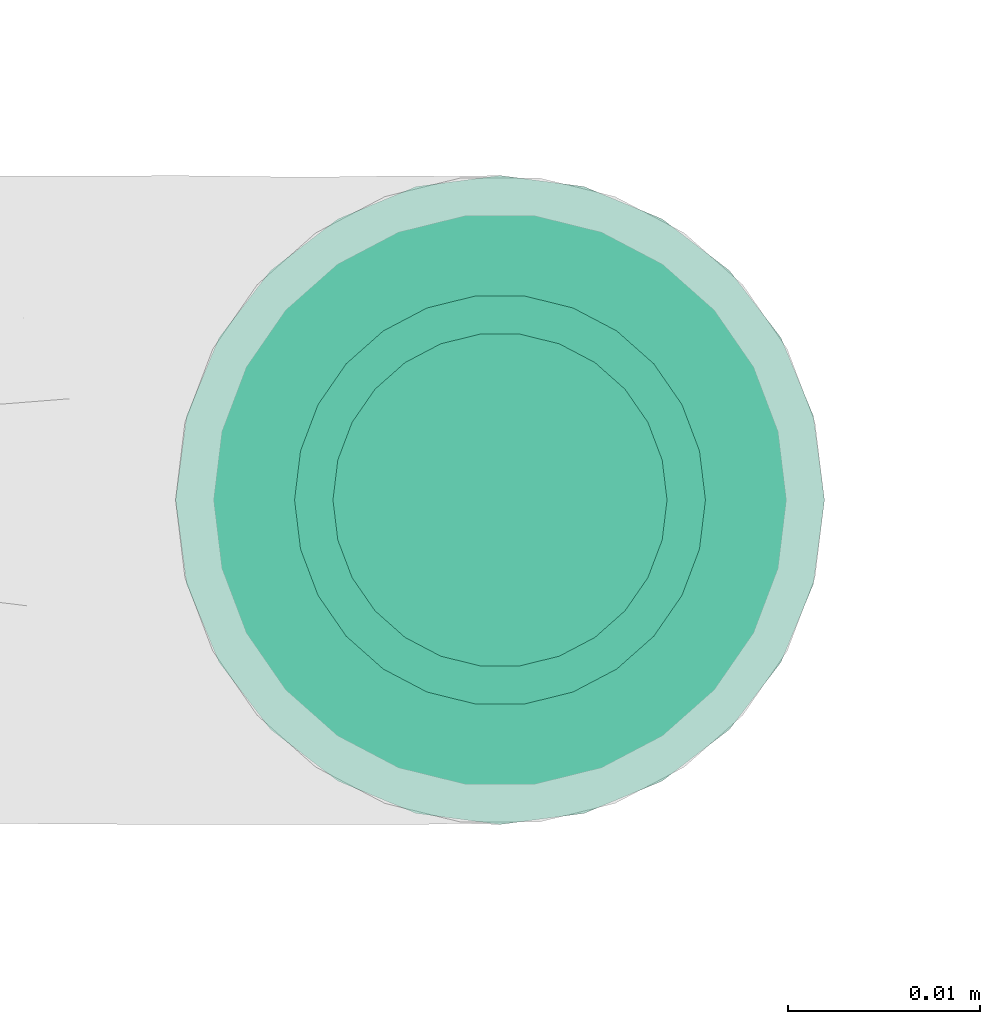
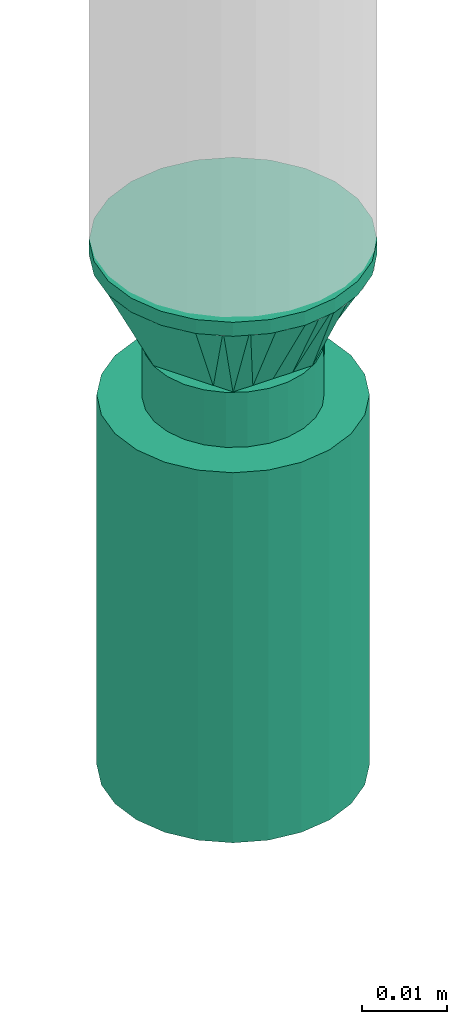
# One storey, part 33 of 43: 1 flow fitting, 1 flow segment, 1 flow terminal.
"""IFC2X3 building model written with IfcOpenShell, lengths in millimetres."""

from ifc_helpers import new_model, entity, si_unit, converted_unit, derived_unit, direction, frame, origin_with_axes, origin_2d_with_axis, place, context, subcontext, project, spatial, hollow_circle, extrude, open_shell, surface_model, source, transform, mapped, type_object, element, save


model = new_model("IFC2X3")

# Units and contexts
model_context = context("Model", 3, precision=0.01, world=frame((0.0, 4.29681676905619e-09, 0.0)), true_north=direction((4.01073788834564e-13, 1.0)))
plan_context = context("Plan", 3, precision=0.01, world=frame((0.0, 4.29681676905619e-09, 0.0)), true_north=direction((4.01073788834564e-13, 1.0)))
body_context = subcontext(model_context, "Body", "Model", "MODEL_VIEW")
ifc_project = project(units=[converted_unit("PLANEANGLEUNIT", "DEGREE", entity("IfcPositiveLengthMeasure", 0.0174532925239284), si_unit("PLANEANGLEUNIT", "RADIAN"), dimensions=[0, 0, 0, 0, 0, 0, 0]), si_unit("AREAUNIT", "SQUARE_METRE"), si_unit("LENGTHUNIT", "METRE", prefix="MILLI"), si_unit("MASSUNIT", "GRAM", prefix="KILO"), si_unit("POWERUNIT", "WATT"), si_unit("PRESSUREUNIT", "PASCAL"), si_unit("FORCEUNIT", "NEWTON", prefix="KILO"), si_unit("ELECTRICVOLTAGEUNIT", "VOLT"), si_unit("ELECTRICCURRENTUNIT", "AMPERE"), si_unit("THERMODYNAMICTEMPERATUREUNIT", "DEGREE_CELSIUS"), si_unit("TIMEUNIT", "SECOND"), si_unit("VOLUMEUNIT", "CUBIC_METRE"), derived_unit("LINEARVELOCITYUNIT", [(si_unit("LENGTHUNIT", "METRE"), 1), (si_unit("TIMEUNIT", "SECOND"), -1)]), derived_unit("VOLUMETRICFLOWRATEUNIT", [(si_unit("VOLUMEUNIT", "CUBIC_METRE"), 1), (si_unit("TIMEUNIT", "SECOND"), -1)]), derived_unit("THERMALTRANSMITTANCEUNIT", [(si_unit("POWERUNIT", "WATT"), 1), (si_unit("THERMODYNAMICTEMPERATUREUNIT", "KELVIN"), -1), (si_unit("AREAUNIT", "SQUARE_METRE"), -1)]), derived_unit("SOUNDPRESSUREUNIT", [(si_unit("PRESSUREUNIT", "PASCAL"), 1)])], contexts=[model_context, plan_context])

# Site, building, storey
site_placement = place(None, frame((0.0, -4.29681676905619e-09, 0.0), z_axis=(0.0, 0.0, 1.0), x_axis=(1.0, 0.0, 0.0)))
site = spatial("IfcSite", under=ifc_project, at=site_placement, CompositionType="ELEMENT")
building_placement = place(site_placement, frame((0.0, 4.29681676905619e-09, 0.0), z_axis=(0.0, 0.0, 1.0), x_axis=(1.0, 0.0, 0.0)))
building = spatial("IfcBuilding", under=site, at=building_placement, Name="mc-building", CompositionType="ELEMENT")
storey_placement = place(building_placement, frame((0.0, 0.0, 210900.0), z_axis=(0.0, 0.0, 1.0), x_axis=(1.0, 0.0, 0.0)))
storey = spatial("IfcBuildingStorey", under=building, at=storey_placement, Name="Nivå F", CompositionType="ELEMENT", Elevation=210900.0)

# Flow fitting
pipe_fitting_type = type_object("IfcPipeFittingType", Name="magi_pipe_fe_reducer_centric_short_NOR", PredefinedType="TRANSITION")
shared_shape_1 = source(origin_with_axes(), body_context, "Body", "SurfaceModel", [
    surface_model("IfcShellBasedSurfaceModel", [(14.4, 4.37404, -16.32415), (14.4, 8.45, -14.63583), (14.4, 11.9501, -11.9501), (14.4, -8.45, -14.63583), (14.4, 16.32415, -4.37404), (14.4, 16.32415, 4.37404), (14.4, 14.63583, -8.45), (14.4, 0.0, -16.9), (14.4, -4.37404, -16.32415), (14.4, -11.9501, -11.9501), (14.4, -16.32415, -4.37404), (14.4, -14.63583, -8.45), (14.4, -16.32415, 4.37404), (14.4, 16.9, 0.0), (14.4, 14.63583, 8.45), (14.4, 11.9501, 11.9501), (14.4, 4.37404, 16.32415), (14.4, 8.45, 14.63583), (14.4, 0.0, 16.9), (14.4, -14.63583, 8.45), (14.4, -16.9, 0.0), (14.4, -8.45, 14.63583), (14.4, -11.9501, 11.9501), (14.4, -4.37404, 16.32415), (12.4, 4.37404, 16.32415), (12.4, -14.63583, 8.45), (12.4, 0.0, 16.9), (12.4, 16.32415, 4.37404), (12.4, 8.45, 14.63583), (12.4, 11.9501, 11.9501), (12.4, 14.63583, 8.45), (12.4, -8.45, 14.63583), (12.4, -11.9501, 11.9501), (12.4, -4.37404, 16.32415), (12.4, -16.32415, 4.37404), (12.4, -16.32415, -4.37404), (12.4, -16.9, 0.0), (12.4, -8.45, -14.63583), (12.4, 16.32415, -4.37404), (12.4, 11.9501, -11.9501), (12.4, 14.63583, -8.45), (12.4, 8.45, -14.63583), (12.4, 4.37404, -16.32415), (12.4, 0.0, -16.9), (12.4, -11.9501, -11.9501), (12.4, -14.63583, -8.45), (12.4, -4.37404, -16.32415), (12.4, 16.9, 0.0), (-2.0, 10.33541, 2.76936), (-2.0, 0.0, 10.7), (-2.0, 2.76936, 10.33541), (-2.0, 7.56604, 7.56604), (-2.0, 5.35, 9.26647), (-2.0, 9.26647, 5.35), (-2.0, -9.26647, 5.35), (-2.0, -2.76936, 10.33541), (-2.0, -7.56604, 7.56604), (-2.0, -5.35, 9.26647), (-2.0, -10.33541, 2.76936), (-2.0, -10.33541, -2.76936), (-2.0, -10.7, 0.0), (-2.0, 10.33541, -2.76936), (-2.0, 7.56604, -7.56604), (-2.0, 9.26647, -5.35), (-2.0, 5.35, -9.26647), (-2.0, -5.35, -9.26647), (-2.0, 2.76936, -10.33541), (-2.0, -7.56604, -7.56604), (-2.0, -9.26647, -5.35), (-2.0, 0.0, -10.7), (-2.0, -2.76936, -10.33541), (-2.0, 10.7, 0.0), (0.0, 5.35, -9.26647), (0.0, 0.0, -10.7), (0.0, 2.76936, -10.33541), (0.0, 10.33541, -2.76936), (0.0, 7.56604, -7.56604), (0.0, -5.35, -9.26647), (0.0, 9.26647, -5.35), (0.0, -9.26647, 5.35), (0.0, -2.76936, -10.33541), (0.0, -7.56604, -7.56604), (0.0, -10.33541, -2.76936), (0.0, -9.26647, -5.35), (0.0, 10.33541, 2.76936), (0.0, 10.7, 0.0), (0.0, 9.26647, 5.35), (0.0, 7.56604, 7.56604), (0.0, 2.76936, 10.33541), (0.0, 0.0, 10.7), (0.0, 5.35, 9.26647), (0.0, -10.33541, 2.76936), (0.0, -10.7, 0.0), (0.0, -7.56604, 7.56604), (0.0, -2.76936, 10.33541), (0.0, -5.35, 9.26647), (0.0, -9.3625, -2.31662), (12.4, -14.42505, -5.97505), (12.4, -15.66253, -2.98753), (0.0, 6.6875, -6.94985), (12.4, 8.96258, -13.18758), (0.0, -6.6875, -6.94985), (12.4, -8.96258, -13.18758), (0.0, 9.3625, -2.31662), (12.4, 15.66253, -2.98753), (12.4, 14.42505, -5.97505), (12.4, -5.97505, -14.42505), (12.4, 5.97505, -14.42505), (0.0, 2.675, -9.26647), (12.4, 13.18758, -8.96258), (0.0, -2.675, -9.26647), (12.4, -13.18758, -8.96258), (0.0, -8.025, -4.63324), (12.4, 2.98753, -15.66253), (0.0, 0.0, -9.26647), (12.4, -2.98753, -15.66253), (0.0, 8.025, -4.63324), (0.0, 9.3625, 2.31662), (12.4, 14.42505, 5.97505), (12.4, 15.66253, 2.98753), (0.0, -6.6875, 6.94985), (12.4, -8.96258, 13.18758), (0.0, 6.6875, 6.94985), (12.4, 8.96258, 13.18758), (0.0, -9.3625, 2.31662), (12.4, -15.66253, 2.98753), (12.4, -14.42505, 5.97505), (12.4, 5.97505, 14.42505), (12.4, -5.97505, 14.42505), (0.0, -2.675, 9.26647), (12.4, -13.18758, 8.96258), (0.0, 2.675, 9.26647), (12.4, 13.18758, 8.96258), (0.0, 8.025, 4.63324), (12.4, -2.98753, 15.66253), (0.0, 0.0, 9.26647), (12.4, 2.98753, 15.66253), (0.0, -8.025, 4.63324)], [open_shell([[[0, 1, 2]], [[3, 0, 2]], [[2, 4, 5]], [[4, 2, 6]], [[2, 5, 3]], [[7, 3, 8]], [[7, 0, 3]], [[9, 10, 11]], [[10, 9, 3]], [[3, 12, 10]], [[5, 4, 13]], [[5, 14, 15]], [[5, 15, 16]], [[16, 12, 3]], [[16, 15, 17]], [[12, 16, 18]], [[18, 19, 12]], [[20, 10, 12]], [[19, 21, 22]], [[19, 18, 21]], [[21, 18, 23]], [[3, 5, 16]], [[24, 25, 26]], [[27, 24, 28]], [[29, 30, 27]], [[29, 27, 28]], [[25, 24, 27]], [[31, 25, 32]], [[31, 33, 26]], [[26, 25, 31]], [[34, 25, 27]], [[34, 35, 36]], [[34, 27, 37]], [[27, 38, 39]], [[39, 38, 40]], [[39, 41, 42]], [[37, 27, 39]], [[42, 43, 39]], [[35, 44, 45]], [[44, 35, 37]], [[37, 43, 46]], [[35, 34, 37]], [[39, 43, 37]], [[38, 27, 47]], [[35, 10, 36]], [[45, 11, 35]], [[3, 44, 37]], [[45, 44, 9]], [[8, 37, 46]], [[35, 11, 10]], [[10, 20, 36]], [[8, 3, 37]], [[9, 44, 3]], [[9, 11, 45]], [[7, 8, 46]], [[46, 43, 7]], [[42, 0, 43]], [[41, 1, 42]], [[6, 39, 40]], [[41, 39, 2]], [[4, 40, 38]], [[41, 2, 1]], [[1, 0, 42]], [[13, 4, 38]], [[6, 40, 4]], [[6, 2, 39]], [[47, 13, 38]], [[43, 0, 7]], [[27, 5, 47]], [[30, 14, 27]], [[17, 29, 28]], [[30, 29, 15]], [[16, 28, 24]], [[27, 14, 5]], [[5, 13, 47]], [[16, 17, 28]], [[15, 29, 17]], [[15, 14, 30]], [[18, 16, 24]], [[24, 26, 18]], [[33, 23, 26]], [[31, 21, 33]], [[19, 32, 25]], [[31, 32, 22]], [[12, 25, 34]], [[31, 22, 21]], [[21, 23, 33]], [[20, 12, 34]], [[19, 25, 12]], [[19, 22, 32]], [[36, 20, 34]], [[26, 23, 18]], [[48, 49, 50]], [[51, 50, 52]], [[51, 53, 48]], [[51, 48, 50]], [[49, 48, 54]], [[55, 56, 57]], [[56, 55, 54]], [[58, 59, 60]], [[54, 55, 49]], [[58, 54, 59]], [[54, 48, 61]], [[59, 54, 61]], [[62, 61, 63]], [[59, 62, 64]], [[61, 62, 59]], [[65, 64, 66]], [[59, 67, 68]], [[67, 59, 65]], [[65, 69, 70]], [[65, 59, 64]], [[66, 69, 65]], [[61, 48, 71]], [[72, 73, 74]], [[75, 72, 76]], [[77, 72, 75]], [[75, 76, 78]], [[79, 77, 75]], [[73, 77, 80]], [[73, 72, 77]], [[81, 82, 83]], [[82, 81, 77]], [[77, 79, 82]], [[84, 75, 85]], [[84, 86, 87]], [[75, 87, 79]], [[88, 89, 87]], [[88, 87, 90]], [[79, 87, 89]], [[82, 91, 92]], [[79, 91, 82]], [[93, 94, 95]], [[94, 93, 79]], [[89, 94, 79]], [[75, 84, 87]], [[59, 82, 60]], [[68, 83, 59]], [[77, 67, 65]], [[68, 67, 81]], [[80, 65, 70]], [[59, 83, 82]], [[82, 92, 60]], [[80, 77, 65]], [[81, 67, 77]], [[81, 83, 68]], [[73, 80, 70]], [[70, 69, 73]], [[66, 74, 69]], [[64, 72, 66]], [[78, 62, 63]], [[64, 62, 76]], [[75, 63, 61]], [[64, 76, 72]], [[72, 74, 66]], [[85, 75, 61]], [[78, 63, 75]], [[78, 76, 62]], [[71, 85, 61]], [[69, 74, 73]], [[48, 84, 71]], [[53, 86, 48]], [[90, 51, 52]], [[53, 51, 87]], [[88, 52, 50]], [[48, 86, 84]], [[84, 85, 71]], [[88, 90, 52]], [[87, 51, 90]], [[87, 86, 53]], [[89, 88, 50]], [[50, 49, 89]], [[55, 94, 49]], [[57, 95, 55]], [[79, 56, 54]], [[57, 56, 93]], [[91, 54, 58]], [[57, 93, 95]], [[95, 94, 55]], [[92, 91, 58]], [[79, 54, 91]], [[79, 93, 56]], [[60, 92, 58]], [[49, 94, 89]], [[29, 26, 39]], [[39, 47, 29]], [[36, 26, 32]], [[36, 44, 43]], [[43, 39, 36]], [[36, 39, 26]], [[92, 95, 77]], [[85, 95, 90]], [[85, 72, 77]], [[85, 77, 95]], [[96, 97, 98]], [[92, 96, 98]], [[99, 100, 72]], [[98, 36, 92]], [[44, 101, 102]], [[101, 77, 102]], [[103, 104, 105]], [[85, 47, 104]], [[77, 106, 102]], [[107, 108, 72]], [[109, 39, 99]], [[106, 77, 110]], [[101, 111, 112]], [[113, 114, 108]], [[100, 99, 39]], [[110, 115, 106]], [[99, 116, 109]], [[100, 107, 72]], [[96, 112, 97]], [[105, 116, 103]], [[85, 104, 103]], [[108, 107, 113]], [[113, 43, 114]], [[116, 105, 109]], [[114, 115, 110]], [[43, 115, 114]], [[111, 101, 44]], [[111, 97, 112]], [[117, 118, 119]], [[85, 117, 119]], [[120, 121, 95]], [[119, 47, 85]], [[29, 122, 123]], [[122, 90, 123]], [[124, 125, 126]], [[92, 36, 125]], [[90, 127, 123]], [[128, 129, 95]], [[130, 32, 120]], [[127, 90, 131]], [[122, 132, 133]], [[134, 135, 129]], [[121, 120, 32]], [[131, 136, 127]], [[120, 137, 130]], [[121, 128, 95]], [[117, 133, 118]], [[126, 137, 124]], [[92, 125, 124]], [[129, 128, 134]], [[134, 26, 135]], [[137, 126, 130]], [[135, 136, 131]], [[26, 136, 135]], [[132, 122, 29]], [[132, 118, 133]]])]),
])
flow_fitting_placement = place(storey_placement, frame((610583.98955, 696033.67925, 2447.76777999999), z_axis=(0.0, 1.0, 0.0), x_axis=(0.0, 0.0, 1.0)))
element("IfcFlowFitting", 1, at=flow_fitting_placement, inside=storey, type_object=pipe_fitting_type, Name="magi_pipe_fe_reducer_centric_short_NOR", context=body_context, shape_type="MappedRepresentation", body=[
    mapped(shared_shape_1, transform((0.0, 0.0, 0.0), scale=1.0)),
])

# Flow segment
pipe_segment_type = type_object("IfcPipeSegmentType", Name="Stålrør normaltykke", PredefinedType="RIGIDSEGMENT")
shared_shape_2 = source(origin_with_axes(), body_context, "Body", "SweptSolid", [
    extrude(hollow_circle(Radius=10.7, WallThickness=2.0, at=origin_2d_with_axis()), frame((0.0, 0.0, 0.0), z_axis=(1.0, 0.0, 0.0), x_axis=(0.0, 1.0, 0.0)), (0.0, 0.0, 1.0), 10.8),
])
flow_segment_placement = place(storey_placement, frame((610583.98955, 696033.67925, 2447.76777999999), z_axis=(0.0, 1.0, 0.0), x_axis=(0.0, 0.0, -1.0)))
element("IfcFlowSegment", 2, at=flow_segment_placement, inside=storey, type_object=pipe_segment_type, Name="Stålrør normaltykke", context=body_context, shape_type="MappedRepresentation", body=[
    mapped(shared_shape_2, transform((0.0, 0.0, 0.0), scale=1.0)),
])

# Flow terminal
fire_suppression_terminal_type = type_object("IfcFireSuppressionTerminalType", Name="SP-15-K80-68DGR-STD-HIMLING", PredefinedType="NOTDEFINED")
shared_shape_3 = source(origin_with_axes(), body_context, "Body", "SurfaceModel", [
    surface_model("IfcShellBasedSurfaceModel", [(4.1411, -15.45481, 53.0), (8.0, -13.85641, 53.0), (11.31371, -11.31371, 53.0), (-8.0, -13.85641, 53.0), (15.45481, -4.1411, 53.0), (16.0, 0.0, 53.0), (13.85641, -8.0, 53.0), (0.0, -16.0, 53.0), (-4.1411, -15.45481, 53.0), (-13.85641, -8.0, 53.0), (-11.31371, -11.31371, 53.0), (-15.45481, -4.1411, 53.0), (15.45481, 4.1411, 53.0), (13.85641, 8.0, 53.0), (11.31371, 11.31371, 53.0), (-4.1411, 15.45481, 53.0), (8.0, 13.85641, 53.0), (4.1411, 15.45481, 53.0), (0.0, 16.0, 53.0), (-13.85641, 8.0, 53.0), (-15.45481, 4.1411, 53.0), (-16.0, 0.0, 53.0), (-11.31371, 11.31371, 53.0), (-8.0, 13.85641, 53.0), (0.0, 16.0, 0.0), (4.1411, 15.45481, 0.0), (8.0, 13.85641, 0.0), (-4.1411, 15.45481, 0.0), (11.31371, 11.31371, 0.0), (13.85641, 8.0, 0.0), (15.45481, 4.1411, 0.0), (-15.45481, -4.1411, 0.0), (-11.31371, 11.31371, 0.0), (-8.0, 13.85641, 0.0), (-13.85641, 8.0, 0.0), (-15.45481, 4.1411, 0.0), (-16.0, 0.0, 0.0), (4.1411, -15.45481, 0.0), (16.0, 0.0, 0.0), (15.45481, -4.1411, 0.0), (13.85641, -8.0, 0.0), (11.31371, -11.31371, 0.0), (8.0, -13.85641, 0.0), (-8.0, -13.85641, 0.0), (-13.85641, -8.0, 0.0), (-11.31371, -11.31371, 0.0), (0.0, -16.0, 0.0), (-4.1411, -15.45481, 0.0)], [open_shell([[[0, 1, 2]], [[3, 0, 2]], [[4, 5, 2]], [[4, 2, 6]], [[3, 2, 5]], [[7, 3, 8]], [[7, 0, 3]], [[3, 9, 10]], [[9, 3, 11]], [[5, 11, 3]], [[5, 12, 11]], [[12, 13, 14]], [[15, 12, 14]], [[16, 17, 18]], [[14, 16, 15]], [[18, 15, 16]], [[11, 19, 20]], [[21, 11, 20]], [[22, 15, 23]], [[15, 22, 19]], [[19, 11, 15]], [[11, 12, 15]], [[24, 25, 26]], [[27, 24, 26]], [[28, 29, 30]], [[27, 26, 28]], [[27, 28, 31]], [[27, 32, 33]], [[32, 27, 34]], [[34, 31, 35]], [[31, 34, 27]], [[35, 31, 36]], [[28, 30, 31]], [[37, 38, 39]], [[37, 39, 40]], [[41, 42, 37]], [[41, 37, 40]], [[38, 37, 43]], [[44, 43, 45]], [[43, 44, 31]], [[43, 46, 47]], [[43, 31, 38]], [[37, 46, 43]], [[38, 31, 30]], [[11, 31, 44]], [[45, 9, 44]], [[3, 43, 47]], [[45, 43, 10]], [[8, 47, 46]], [[31, 21, 36]], [[31, 11, 21]], [[44, 9, 11]], [[45, 10, 9]], [[3, 10, 43]], [[47, 8, 3]], [[46, 7, 8]], [[0, 37, 42]], [[41, 1, 42]], [[6, 40, 39]], [[41, 40, 2]], [[4, 39, 38]], [[37, 0, 7]], [[42, 1, 0]], [[41, 2, 1]], [[40, 6, 2]], [[4, 6, 39]], [[38, 5, 4]], [[37, 7, 46]], [[12, 38, 30]], [[13, 30, 29]], [[16, 26, 25]], [[17, 25, 24]], [[30, 13, 12]], [[12, 5, 38]], [[28, 14, 13]], [[28, 26, 14]], [[14, 26, 16]], [[25, 17, 16]], [[28, 13, 29]], [[24, 18, 17]], [[15, 27, 33]], [[32, 23, 33]], [[19, 34, 35]], [[32, 34, 22]], [[20, 35, 36]], [[27, 15, 18]], [[33, 23, 15]], [[32, 22, 23]], [[34, 19, 22]], [[20, 19, 35]], [[36, 21, 20]], [[27, 18, 24]]])]),
])
flow_terminal_placement = place(storey_placement, frame((610583.98955, 696033.67925, 2440.0), z_axis=(0.0, 0.0, -1.0), x_axis=(-1.0, 0.0, 0.0)))
element("IfcFlowTerminal", 3, at=flow_terminal_placement, inside=storey, type_object=fire_suppression_terminal_type, Name="SP-15-K80-68DGR-STD-HIMLING", context=body_context, shape_type="MappedRepresentation", body=[
    mapped(shared_shape_3, transform((0.0, 0.0, 0.0), scale=1.0)),
])

save(model, "model.ifc")
